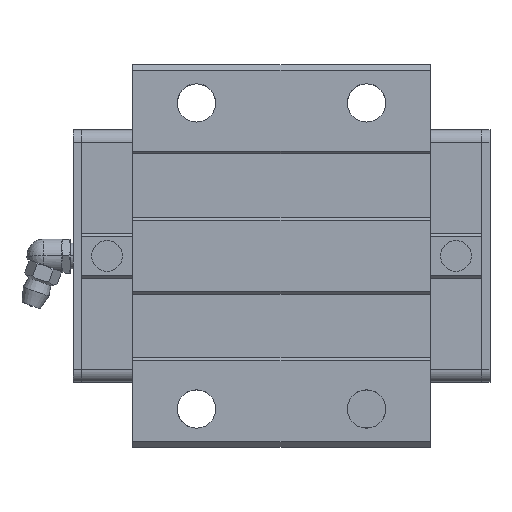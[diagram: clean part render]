
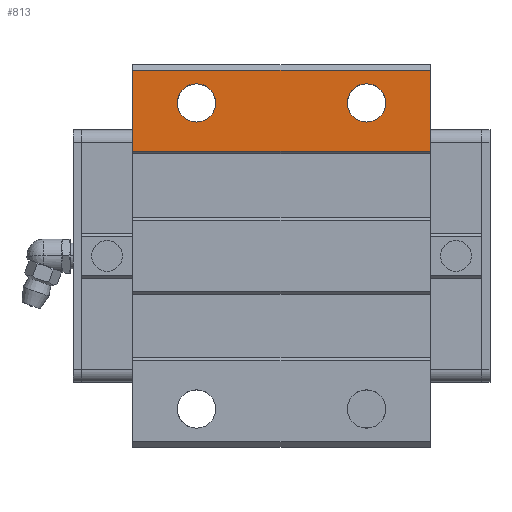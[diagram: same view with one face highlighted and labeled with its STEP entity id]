
A CAD part, top view. The second image highlights one B-rep face of the part: STEP entity #813.
In plain terms, the highlighted planar face has unit normal (0, 0, 1).
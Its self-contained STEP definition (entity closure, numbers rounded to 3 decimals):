
#176=CARTESIAN_POINT('POINT17',(33.55,36.,32.));
#177=VERTEX_POINT('VERTEX17',#176);
#185=CARTESIAN_POINT('POINT18',(24.55,36.,32.));
#186=VERTEX_POINT('VERTEX18',#185);
#193=CARTESIAN_POINT('POS23',(29.05,36.,32.));
#194=DIRECTION('DIR33',(0.,0.,-1.));
#195=DIRECTION('DIR34',(1.,0.,0.));
#196=AXIS2_PLACEMENT_3D('AXIS11',#193,#194,#195);
#197=CIRCLE('ELLIPSE7',#196,4.5);
#198=EDGE_CURVE('EDGE22',#177,#186,#197,.T.);
#209=EDGE_CURVE('EDGE23',#186,#177,#197,.T.);
#295=CARTESIAN_POINT('POINT24',(73.55,36.,32.));
#296=VERTEX_POINT('VERTEX24',#295);
#312=CARTESIAN_POINT('POINT26',(64.55,36.,32.));
#313=VERTEX_POINT('VERTEX26',#312);
#320=CARTESIAN_POINT('POS35',(69.05,36.,32.));
#321=DIRECTION('DIR52',(0.,0.,-1.));
#322=DIRECTION('DIR53',(1.,0.,0.));
#323=AXIS2_PLACEMENT_3D('AXIS18',#320,#321,#322);
#324=CIRCLE('ELLIPSE11',#323,4.5);
#325=EDGE_CURVE('EDGE34',#296,#313,#324,.T.);
#336=EDGE_CURVE('EDGE35',#313,#296,#324,.T.);
#744=CARTESIAN_POINT('POINT58',(84.1,24.651,32.));
#745=VERTEX_POINT('VERTEX58',#744);
#752=CARTESIAN_POINT('POINT59',(14.,24.651,32.));
#753=VERTEX_POINT('VERTEX59',#752);
#754=CARTESIAN_POINT('POS82',(14.,24.651,32.));
#755=DIRECTION('DIR118',(1.,0.,0.));
#756=VECTOR('VEC46',#755,1.);
#757=LINE('STRAIGHT46',#754,#756);
#758=EDGE_CURVE('EDGE80',#753,#745,#757,.T.);
#775=ORIENTED_EDGE('COEDGE121',*,*,#325,.T.);
#776=ORIENTED_EDGE('COEDGE122',*,*,#336,.T.);
#777=EDGE_LOOP('NONE',(#775,#776));
#778=FACE_BOUND('LOOP1',#777,.T.);
#779=ORIENTED_EDGE('COEDGE123',*,*,#198,.T.);
#780=ORIENTED_EDGE('COEDGE124',*,*,#209,.T.);
#781=EDGE_LOOP('NONE',(#779,#780));
#782=FACE_BOUND('LOOP1',#781,.T.);
#783=CARTESIAN_POINT('POINT60',(84.1,43.7,32.));
#784=VERTEX_POINT('VERTEX60',#783);
#785=CARTESIAN_POINT('POS85',(84.1,43.7,32.));
#786=DIRECTION('DIR122',(0.,1.,0.));
#787=VECTOR('VEC48',#786,1.);
#788=LINE('STRAIGHT48',#785,#787);
#789=EDGE_CURVE('EDGE82',#745,#784,#788,.T.);
#790=ORIENTED_EDGE('COEDGE125',*,*,#789,.T.);
#791=CARTESIAN_POINT('POINT61',(14.,43.7,32.));
#792=VERTEX_POINT('VERTEX61',#791);
#793=CARTESIAN_POINT('POS86',(14.,43.7,32.));
#794=DIRECTION('DIR123',(1.,0.,0.));
#795=VECTOR('VEC49',#794,1.);
#796=LINE('STRAIGHT49',#793,#795);
#797=EDGE_CURVE('EDGE83',#792,#784,#796,.T.);
#798=ORIENTED_EDGE('COEDGE126',*,*,#797,.F.);
#799=CARTESIAN_POINT('POS87',(14.,43.7,32.));
#800=DIRECTION('DIR124',(0.,-1.,0.));
#801=VECTOR('VEC50',#800,1.);
#802=LINE('STRAIGHT50',#799,#801);
#803=EDGE_CURVE('EDGE84',#792,#753,#802,.T.);
#804=ORIENTED_EDGE('COEDGE127',*,*,#803,.T.);
#805=ORIENTED_EDGE('COEDGE128',*,*,#758,.T.);
#806=EDGE_LOOP('NONE',(#790,#798,#804,#805));
#807=FACE_BOUND('LOOP1',#806,.T.);
#808=CARTESIAN_POINT('POS88',(14.,24.651,32.));
#809=DIRECTION('DIR125',(0.,0.,1.));
#810=DIRECTION('DIR126',(1.,0.,0.));
#811=AXIS2_PLACEMENT_3D('AXIS38',#808,#809,#810);
#812=PLANE('PLANE15',#811);
#813=ADVANCED_FACE('FACE25',(#778,#782,#807),#812,.T.);
